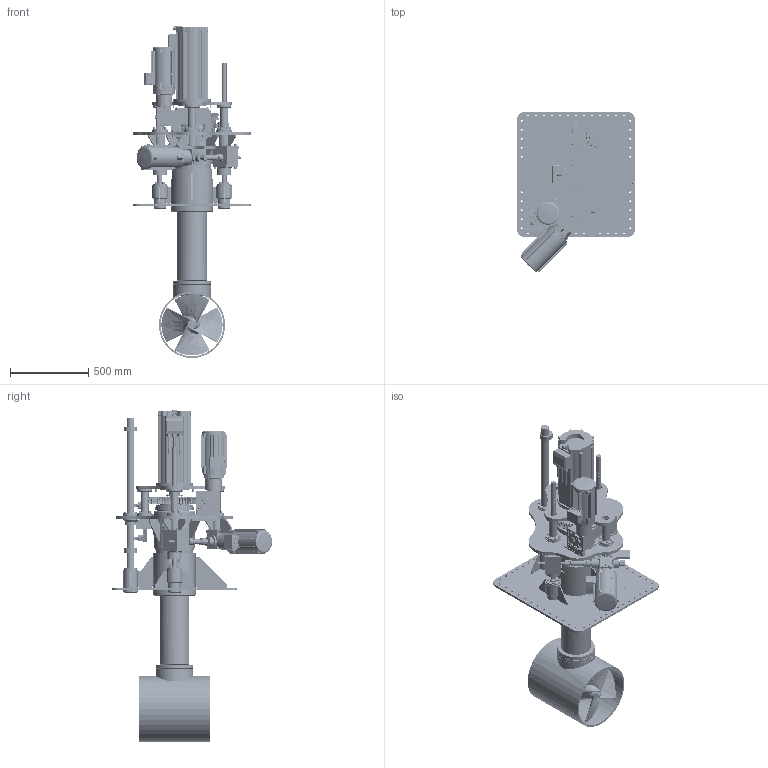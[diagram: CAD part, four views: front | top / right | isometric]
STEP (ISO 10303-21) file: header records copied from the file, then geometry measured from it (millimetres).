
FILE_DESCRIPTION(/* description */ (''),/* implementation_level */ '2;1');
FILE_NAME(/* name */ 'Q:\THRUSTERS\THRUSTER SALES & SUPPORT DOCS\THRUSTER Sales\E-V-R\E-0400-V-R\E-0400-V-R DEPLOYED.stp',/* time_stamp */ '2022-06-01T18:53:33+01:00',/* author */ ('Ben'),/* organization */ (''),/* preprocessor_version */ 'ST-DEVELOPER v18.1',/* originating_system */ 'Autodesk Inventor 2022',/* authorisation */ '');
FILE_SCHEMA (('AUTOMOTIVE_DESIGN { 1 0 10303 214 3 1 1 }'));
Products named in the file (1): E-0400-V-085-R-01_Simplify_1
Bounding box: 750 x 1023.57 x 2116.65 mm (x, y, z)
Volume: 128546059.3 mm3; surface area: 8635427.9 mm2
Topology: 3 solids, 3 shells, 3743 faces, 9854 edges, 6390 vertices
Faces by surface type: plane 1731, cylinder 1103, cone 489, torus 279, bspline 129, sphere 12
Full cylindrical faces by diameter (mm): 3 x4, 4 x2, 5.459 x3, 6 x16, 7.323 x1, 8 x14, 8.5 x7, 8.7 x3, 9.398 x3, 10 x22, 11.938 x3, 13 x80, 14.097 x3, 14.662 x2, 14.986 x3, 16 x29, 16.662 x2, 17 x9, 17.5 x2, 17.9 x1, 18 x2, 20 x11, 21 x1, 22.5 x3, 22.7 x2, 23 x2, 24 x1, 25 x5, 27.94 x3, 30 x14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
Entity records: 132631 total; most frequent: CARTESIAN_POINT 35679, ORIENTED_EDGE 19720, DIRECTION 19128, EDGE_CURVE 9860, AXIS2_PLACEMENT_3D 7226, VERTEX_POINT 6390, LINE 4676, VECTOR 4676
